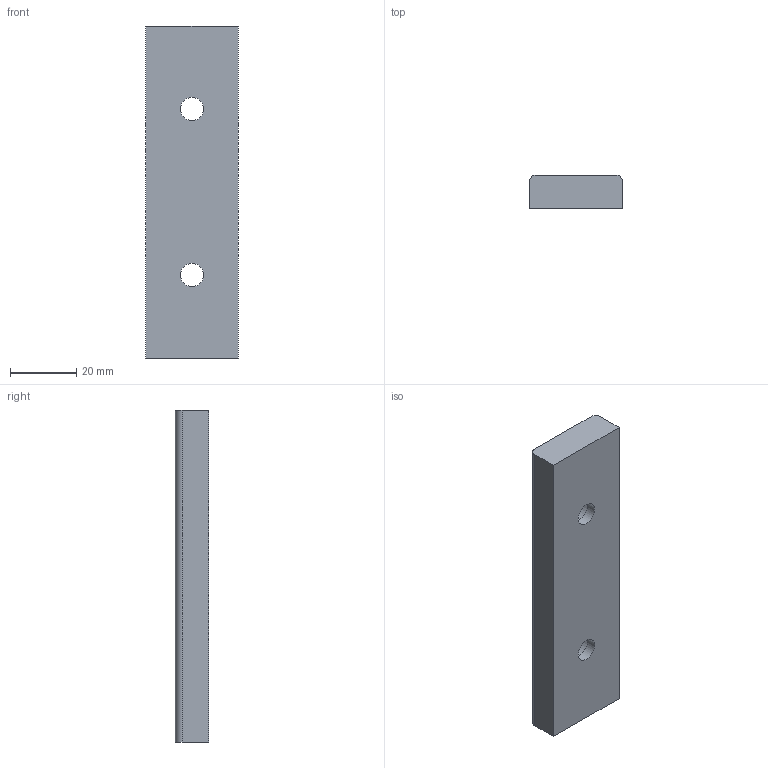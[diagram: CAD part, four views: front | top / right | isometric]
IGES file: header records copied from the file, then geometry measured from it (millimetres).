
Start section: Data from Parasolid IGES Translator 20.0.26, Copyright(c) 2006 Siemens P LM Software. All Rights Reserved.
Global section: file name: G220-01-028-100.igs; native system: By Siemens PLM Incorporated; preprocessor: XPlus GENERIC/IGES 20.0.26; author: Noname; organization: Noname; date: 20190708.081539; units: millimetre
Bounding box: 28 x 10 x 100 mm (x, y, z)
Surface area: 8446.7 mm2 (no closed solid volume)
Topology: 0 solids, 0 shells, 14 faces, 60 edges, 54 vertices
Faces by surface type: extrusion 8, revolution 6
